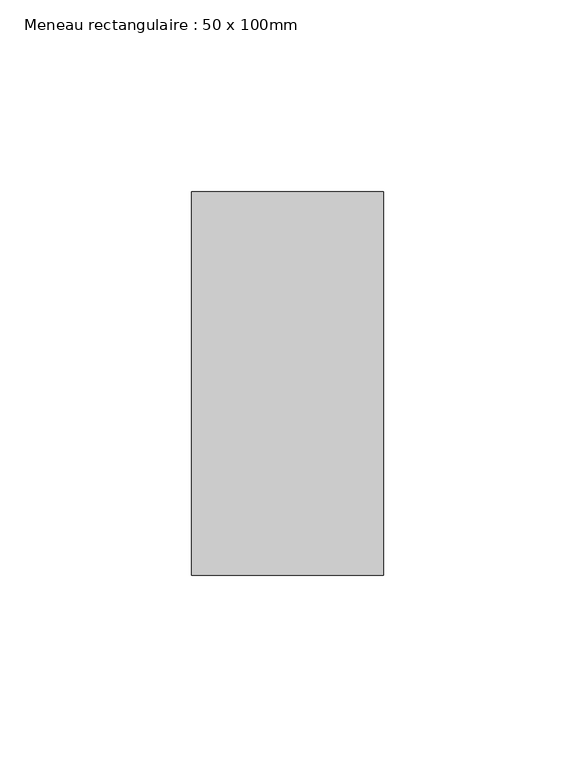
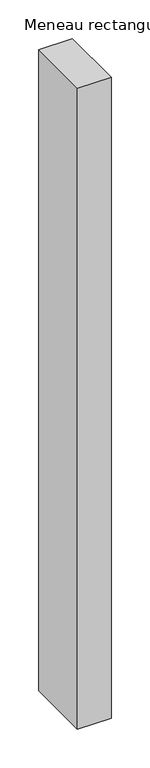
"""IFC4 building model written with IfcOpenShell, lengths in millimetres: member geometry, Meneau rectangulaire : 50 x 100mm."""

import ifcopenshell
import ifcopenshell.guid

model = None  # the IFC model being written
_history = None  # IfcOwnerHistory: only IFC2X3 demands one
_inside = {}  # id of a spatial element -> (the spatial element, [elements in it])
_under = {}  # id of a project, library or spatial element -> (it, [spatial elements below it])
_declared = {}  # id of a project -> (the project, [libraries it declares])
_typed = {}  # id of a type object -> (the type object, [elements of that type])
_made_of = {}  # id of a material, layer set ... -> (it, [elements and type objects made of it])


def new_model(schema):
    """Start an empty IFC model of exactly this schema.

    Asked for "IFC4X3", IfcOpenShell would pick the latest addendum, in which some entities
    have other attributes; the version numbers below select the first issue.
    IFC2X3 requires an IfcOwnerHistory on every rooted entity: one is made here for all.
    """
    global model, _history
    if schema == "IFC4X3":
        model = ifcopenshell.file(schema_version=(4, 3, 0, 0))
    else:
        model = ifcopenshell.file(schema=schema)
    _inside.clear()
    _under.clear()
    _declared.clear()
    _typed.clear()
    _made_of.clear()
    _history = None
    if model.schema == "IFC2X3":
        org = make("IfcOrganization", Name="unknown")
        user = make(
            "IfcPersonAndOrganization",
            ThePerson=make("IfcPerson", FamilyName="unknown"),
            TheOrganization=org,
        )
        app = make(
            "IfcApplication",
            ApplicationDeveloper=org,
            Version="unknown",
            ApplicationFullName="unknown",
            ApplicationIdentifier="unknown",
        )
        _history = make(
            "IfcOwnerHistory",
            OwningUser=user,
            OwningApplication=app,
            ChangeAction="ADDED",
            CreationDate=0,
        )
    return model


def make(cls, **values):
    """One entity of the class cls with the attributes given. An attribute that is None is left unset."""
    return model.create_entity(
        cls, **{name: value for name, value in values.items() if value is not None}
    )


def rooted(cls, **values):
    """An entity with a GlobalId (a new one), such as an element, a storey or a relation."""
    return make(cls, GlobalId=ifcopenshell.guid.new(), OwnerHistory=_history, **values)


def si_unit(unit_type, name, prefix=None):
    """IfcSIUnit, for example si_unit("LENGTHUNIT", "METRE", prefix="MILLI")."""
    return make("IfcSIUnit", UnitType=unit_type, Prefix=prefix, Name=name)


def assignment(units):
    """IfcUnitAssignment: the units of a project."""
    return None if units is None else make("IfcUnitAssignment", Units=units)


def point(xyz):
    """IfcCartesianPoint."""
    return None if xyz is None else make("IfcCartesianPoint", Coordinates=xyz)


def direction(xyz):
    """IfcDirection."""
    return None if xyz is None else make("IfcDirection", DirectionRatios=xyz)


def frame(location, z_axis=None, x_axis=None):
    """IfcAxis2Placement3D, a coordinate frame: its origin and axes. An axis left out is left unset."""
    return make(
        "IfcAxis2Placement3D",
        Location=point(location),
        Axis=direction(z_axis),
        RefDirection=direction(x_axis),
    )


def origin():
    """The frame at (0, 0, 0) with its axes left unset."""
    return frame((0.0, 0.0, 0.0))


def place(relative_to, where):
    """IfcLocalPlacement: puts the frame where relative to a parent placement (None: the world)."""
    return make(
        "IfcLocalPlacement", PlacementRelTo=relative_to, RelativePlacement=where
    )


def context(
    kind, dimensions, precision=None, world=None, true_north=None, identifier=None
):
    """IfcGeometricRepresentationContext, for example the 3D "Model" context."""
    return make(
        "IfcGeometricRepresentationContext",
        ContextIdentifier=identifier,
        ContextType=kind,
        CoordinateSpaceDimension=dimensions,
        Precision=precision,
        WorldCoordinateSystem=world,
        TrueNorth=true_north,
    )


def project(units=None, contexts=None):
    """IfcProject with its units and contexts."""
    return rooted(
        "IfcProject",
        Name="project",
        RepresentationContexts=contexts,
        UnitsInContext=assignment(units),
    )


def spatial(cls, under=None, at=None, **own):
    """A site, building, storey or space (cls), placed at a placement, below another one or the project."""
    s = rooted(cls, ObjectPlacement=at, **own)
    if under is not None:
        _under.setdefault(under.id(), (under, []))[1].append(s)
    return s


def polyline(points):
    """IfcPolyline through the points."""
    return make("IfcPolyline", Points=[point(p) for p in points])


def outline(outer, holes=None, kind="AREA"):
    """IfcArbitraryClosedProfileDef: a profile drawn as a closed curve; with holes, ...WithVoids."""
    if holes is None:
        return make("IfcArbitraryClosedProfileDef", ProfileType=kind, OuterCurve=outer)
    return make(
        "IfcArbitraryProfileDefWithVoids",
        ProfileType=kind,
        OuterCurve=outer,
        InnerCurves=holes,
    )


def extrude(swept, where, along, depth):
    """IfcExtrudedAreaSolid: the profile swept, set in the frame where, extruded along a direction by depth."""
    return make(
        "IfcExtrudedAreaSolid",
        SweptArea=swept,
        Position=where,
        ExtrudedDirection=direction(along),
        Depth=depth,
    )


def shape(context_of_items, identifier, shape_type, items):
    """IfcShapeRepresentation: the items that make up one representation, for example the "Body"."""
    return make(
        "IfcShapeRepresentation",
        ContextOfItems=context_of_items,
        RepresentationIdentifier=identifier,
        RepresentationType=shape_type,
        Items=items,
    )


def source(mapping_origin, context_of_items, identifier, shape_type, items):
    """IfcRepresentationMap: a shape defined once, which mapped items show again and again."""
    return make(
        "IfcRepresentationMap",
        MappingOrigin=mapping_origin,
        MappedRepresentation=shape(context_of_items, identifier, shape_type, items),
    )


def transform(
    local_origin,
    x_axis=None,
    y_axis=None,
    z_axis=None,
    scale=None,
    scale2=None,
    scale3=None,
    uniform=True,
):
    """IfcCartesianTransformationOperator3D, or its non-uniform kind. x_axis, y_axis, z_axis: its Axis1, 2, 3."""
    if uniform:
        return make(
            "IfcCartesianTransformationOperator3D",
            Axis1=direction(x_axis),
            Axis2=direction(y_axis),
            LocalOrigin=point(local_origin),
            Scale=scale,
            Axis3=direction(z_axis),
        )
    return make(
        "IfcCartesianTransformationOperator3DnonUniform",
        Axis1=direction(x_axis),
        Axis2=direction(y_axis),
        LocalOrigin=point(local_origin),
        Scale=scale,
        Axis3=direction(z_axis),
        Scale2=scale2,
        Scale3=scale3,
    )


def mapped(mapping_source, mapping_target):
    """IfcMappedItem: shows the shape of a source again, moved by a transform."""
    return make(
        "IfcMappedItem", MappingSource=mapping_source, MappingTarget=mapping_target
    )


def made_of(thing, what):
    """Note that an element or type object is made of a material, layer set ...; save() writes the relation."""
    if what is not None:
        _made_of.setdefault(what.id(), (what, []))[1].append(thing)
    return thing


def element(
    cls,
    number,
    at=None,
    inside=None,
    cuts=None,
    type_object=None,
    material=None,
    context=None,
    identifier="Body",
    shape_type=None,
    held_by="IfcProductDefinitionShape",
    body=None,
    shapes=None,
    **own,
):
    """One element of the class cls, such as IfcWall. Its Tag is "e" and its number.

    at: its placement. inside: the storey or other place that contains it. cuts: it is an
    opening in that element (IfcRelVoidsElement). A single representation is given by context,
    identifier, shape_type and body (its items); several are given by shapes. held_by: the class
    of the entity that holds the representations. save() writes the other relations.
    """
    e = rooted(cls, Tag="e%d" % number, ObjectPlacement=at, **own)
    if body is not None:
        shapes = [shape(context, identifier, shape_type, body)]
    if shapes is not None:
        e.Representation = make(held_by, Representations=shapes)
    if inside is not None:
        _inside.setdefault(inside.id(), (inside, []))[1].append(e)
    if cuts is not None:
        rooted(
            "IfcRelVoidsElement", RelatingBuildingElement=cuts, RelatedOpeningElement=e
        )
    if type_object is not None:
        _typed.setdefault(type_object.id(), (type_object, []))[1].append(e)
    return made_of(e, material)


def aggregate(whole, parts):
    """IfcRelAggregates: a whole, such as a stair, and the parts it consists of."""
    return rooted("IfcRelAggregates", RelatingObject=whole, RelatedObjects=parts)


def save(model, path):
    """Write the relations noted so far, then the file.

    IfcRelAggregates (storeys below a building ...), IfcRelContainedInSpatialStructure (elements
    in a storey), IfcRelDefinesByType, IfcRelAssociatesMaterial and IfcRelDeclares: one each for
    every whole, place, type object, material and project.
    """
    for whole, parts in _under.values():
        aggregate(whole, parts)
    for where, things in _inside.values():
        rooted(
            "IfcRelContainedInSpatialStructure",
            RelatedElements=things,
            RelatingStructure=where,
        )
    for kind, things in _typed.values():
        rooted("IfcRelDefinesByType", RelatedObjects=things, RelatingType=kind)
    for what, things in _made_of.values():
        rooted("IfcRelAssociatesMaterial", RelatedObjects=things, RelatingMaterial=what)
    for by, libraries in _declared.values():
        rooted("IfcRelDeclares", RelatingContext=by, RelatedDefinitions=libraries)
    model.write(path)


def meneau_rectangulaire_50_x_100mm_6a33d58d(model_context):
    return source(origin(), model_context, "Body", "SweptSolid", [
        extrude(outline(polyline([(0.0, 50.0), (0.0, -50.0), (-50.0, -50.0), (-50.0, 50.0), (0.0, 50.0)])), frame((0.0, 0.0, -1010.0), z_axis=(0.0, 0.0, 1.0), x_axis=(1.0, 0.0, 0.0)), (0.0, 0.0, 1.0), 1010.0),
    ])


if __name__ == "__main__":
    model = new_model("IFC4")
    model_context = context("Model", 3, world=origin())
    ifc_project = project(units=[si_unit("LENGTHUNIT", "METRE", prefix="MILLI")], contexts=[model_context])
    site = spatial("IfcSite", under=ifc_project)
    building = spatial("IfcBuilding", under=site)
    placement = place(None, origin())
    meneau_rectangulaire_50_x_100mm_shape = meneau_rectangulaire_50_x_100mm_6a33d58d(model_context)
    element("IfcMember", 1, ObjectType="Meneau rectangulaire : 50 x 100mm", at=placement, inside=building, context=model_context, shape_type="MappedRepresentation", body=[
        mapped(meneau_rectangulaire_50_x_100mm_shape, transform((0.0, 0.0, 0.0), x_axis=(1.0, 0.0, 0.0), y_axis=(0.0, 1.0, 0.0), z_axis=(0.0, 0.0, 1.0))),
    ])
    save(model, "model.ifc")
